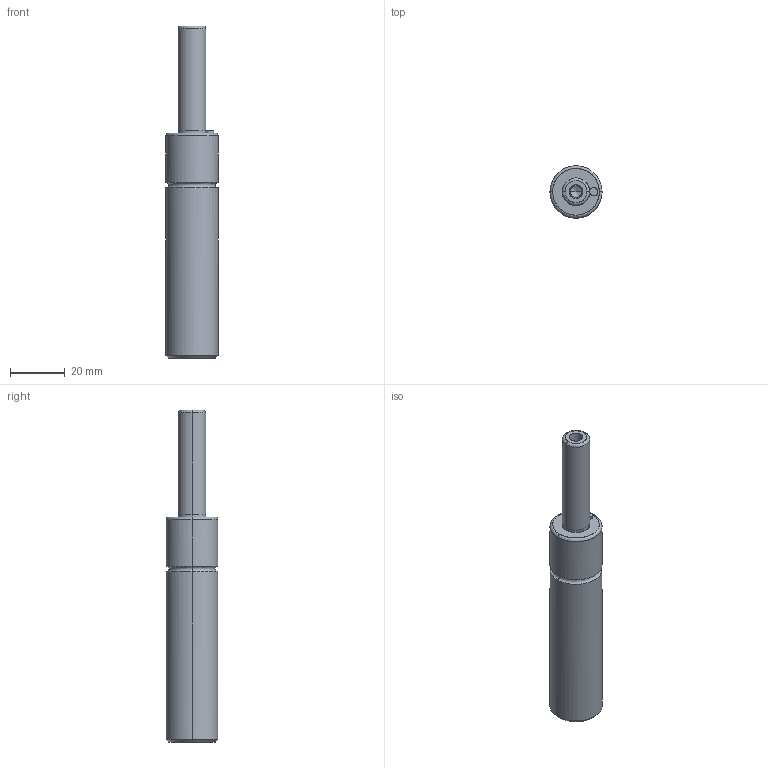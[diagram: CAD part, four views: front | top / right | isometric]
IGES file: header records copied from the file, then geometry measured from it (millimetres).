
Global section: file name: E:\UnigraphicsGraphicData\MISUMI_PRESS-PARTS\IGES\3d_mgsa19-38_04547_r00.igs; native system: NX V5.0; preprocessor: UGS NX IGES V5.0; author: MISUMI; date: 20110105.161431; units: millimetre
Bounding box: 19 x 18.95 x 121 mm (x, y, z)
Surface area: 6963.1 mm2 (no closed solid volume)
Topology: 0 solids, 0 shells, 36 faces, 216 edges, 211 vertices
Faces by surface type: bspline 36
